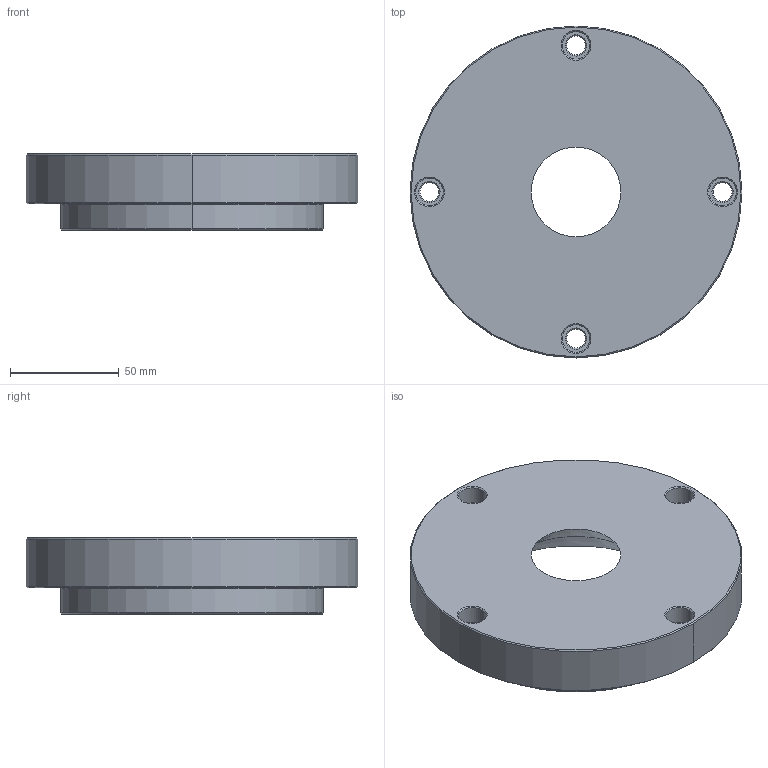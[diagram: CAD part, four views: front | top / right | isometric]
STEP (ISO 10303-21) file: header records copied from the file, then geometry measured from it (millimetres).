
FILE_DESCRIPTION((''),'2;1');
FILE_NAME('RMC-61303','2007-10-01T',('glafferty'),('Pleasant Precision, Inc. (419)675-0556'),'PRO/ENGINEER BY PARAMETRIC TECHNOLOGY CORPORATION, 2006080','PRO/ENGINEER BY PARAMETRIC TECHNOLOGY CORPORATION, 2006080','');
FILE_SCHEMA(('CONFIG_CONTROL_DESIGN'));
Length unit declared in the file: inch
Products named in the file (1): RMC-61303
Bounding box: 152.4 x 152.4 x 34.92 mm (x, y, z)
Volume: 371643 mm3; surface area: 54669.1 mm2
Topology: 1 solids, 1 shells, 67 faces, 142 edges, 82 vertices
Faces by surface type: cone 34, cylinder 20, plane 7, torus 6
Entity records: 1860 total; most frequent: DIRECTION 364, CARTESIAN_POINT 291, ORIENTED_EDGE 284, AXIS2_PLACEMENT_3D 155, EDGE_CURVE 142, CIRCLE 88, VERTEX_POINT 82, EDGE_LOOP 82
